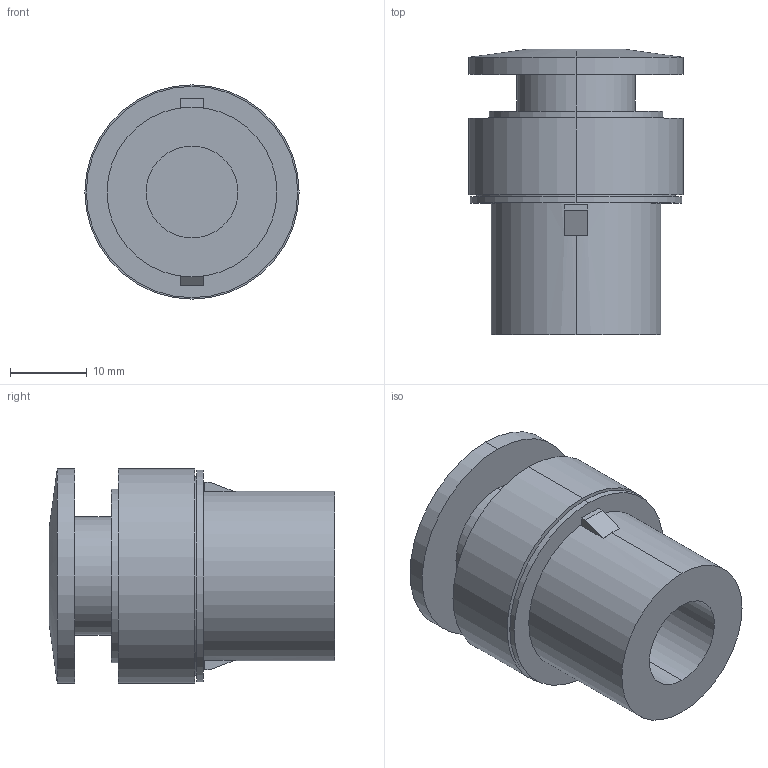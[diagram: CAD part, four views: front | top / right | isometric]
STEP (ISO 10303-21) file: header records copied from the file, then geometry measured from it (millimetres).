
FILE_DESCRIPTION (( 'STEP AP203' ), '1' );
FILE_NAME ('B3P3.STEP', '2012-12-11T07:13:09', ( 'edv' ), ( '' ), 'SwSTEP 2.0', 'SolidWorks 2013', '' );
FILE_SCHEMA (( 'CONFIG_CONTROL_DESIGN' ));
Length unit declared in the file: millimetre
Products named in the file (1): B3P3
Bounding box: 28 x 37.3 x 28 mm (x, y, z)
Volume: 13562.5 mm3; surface area: 5887 mm2
Topology: 1 solids, 1 shells, 39 faces, 84 edges, 54 vertices
Faces by surface type: plane 21, cylinder 16, cone 2
Entity records: 1149 total; most frequent: DIRECTION 206, CARTESIAN_POINT 178, ORIENTED_EDGE 168, EDGE_CURVE 84, AXIS2_PLACEMENT_3D 82, VERTEX_POINT 54, EDGE_LOOP 46, LINE 42
